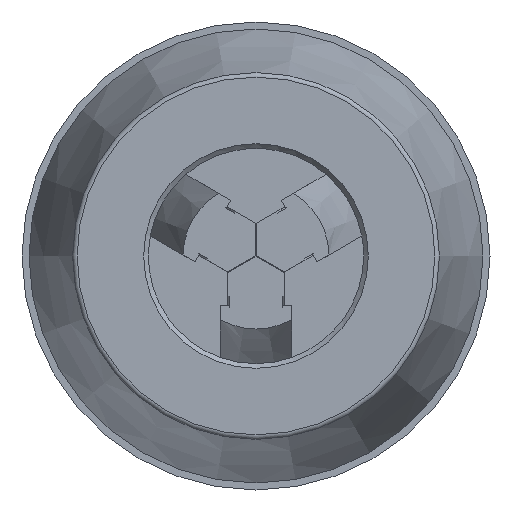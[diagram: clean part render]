
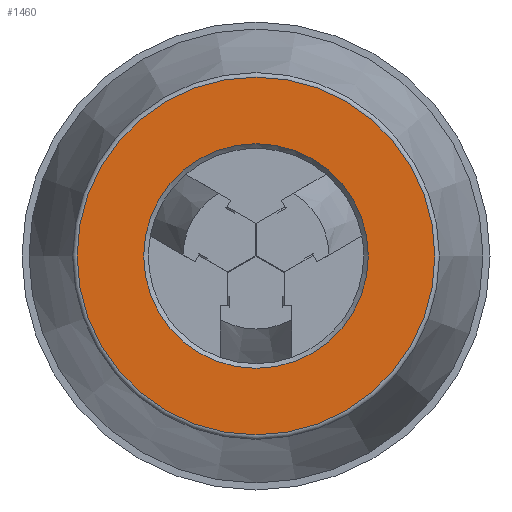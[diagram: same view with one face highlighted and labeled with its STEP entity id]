
A CAD part, front view. The second image highlights one B-rep face of the part: STEP entity #1460.
In plain terms, the highlighted planar face has unit normal (0, -1, 0).
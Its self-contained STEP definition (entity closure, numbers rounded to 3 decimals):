
#61=FACE_BOUND('',#243,.T.);
#73=PLANE('',#1588);
#153=FACE_OUTER_BOUND('',#242,.T.);
#242=EDGE_LOOP('',(#1055));
#243=EDGE_LOOP('',(#1056));
#631=CIRCLE('',#1584,19.11);
#635=CIRCLE('',#1589,12.);
#679=VERTEX_POINT('',#2155);
#682=VERTEX_POINT('',#2163);
#824=EDGE_CURVE('',#679,#679,#631,.T.);
#828=EDGE_CURVE('',#682,#682,#635,.T.);
#1055=ORIENTED_EDGE('',*,*,#824,.F.);
#1056=ORIENTED_EDGE('',*,*,#828,.F.);
#1460=ADVANCED_FACE('',(#153,#61),#73,.T.);
#1584=AXIS2_PLACEMENT_3D('',#2156,#1749,#1750);
#1588=AXIS2_PLACEMENT_3D('',#2162,#1757,#1758);
#1589=AXIS2_PLACEMENT_3D('',#2164,#1759,#1760);
#1749=DIRECTION('center_axis',(0.,1.,0.));
#1750=DIRECTION('ref_axis',(-1.,0.,0.));
#1757=DIRECTION('center_axis',(0.,-1.,0.));
#1758=DIRECTION('ref_axis',(0.,0.,-1.));
#1759=DIRECTION('center_axis',(0.,-1.,0.));
#1760=DIRECTION('ref_axis',(-1.,0.,0.));
#2155=CARTESIAN_POINT('',(0.,-166.,19.11));
#2156=CARTESIAN_POINT('Origin',(0.,-166.,0.));
#2162=CARTESIAN_POINT('Origin',(0.,-166.,0.));
#2163=CARTESIAN_POINT('',(12.,-166.,0.));
#2164=CARTESIAN_POINT('Origin',(0.,-166.,0.));
